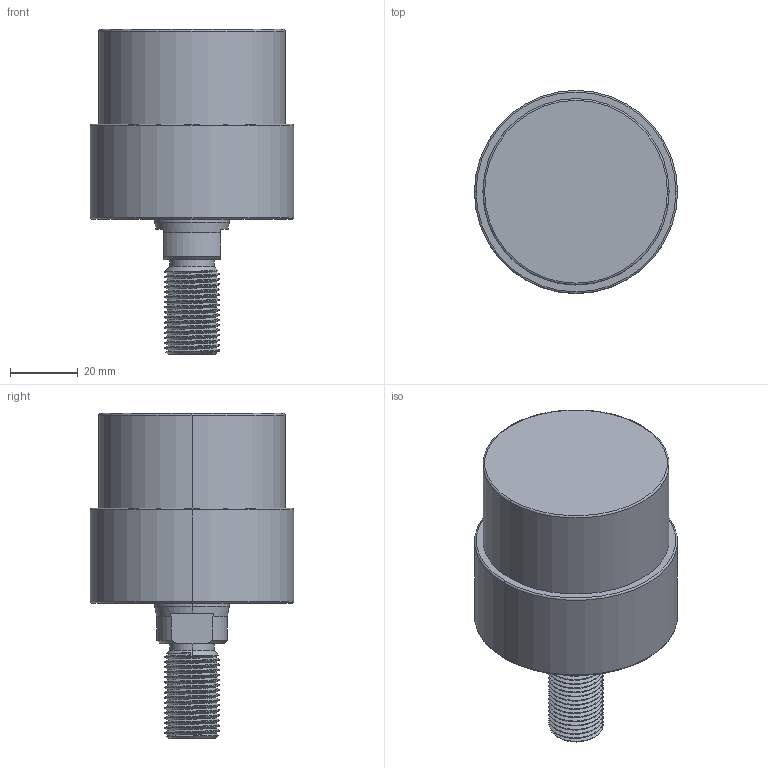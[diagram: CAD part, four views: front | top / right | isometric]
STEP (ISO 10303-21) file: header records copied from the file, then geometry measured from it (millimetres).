
FILE_DESCRIPTION (( 'STEP AP203' ), '1' );
FILE_NAME ('CLLU-055CT-(01-014).STEP', '2020-01-16T00:21:19', ( '' ), ( '' ), 'SwSTEP 2.0', 'SolidWorks 2015', '' );
FILE_SCHEMA (( 'CONFIG_CONTROL_DESIGN' ));
Length unit declared in the file: millimetre
Products named in the file (1): CLLU-055CT-(01-014)
Bounding box: 60 x 60 x 96 mm (x, y, z)
Volume: 152971.2 mm3; surface area: 19817.7 mm2
Topology: 1 solids, 1 shells, 101 faces, 253 edges, 155 vertices
Faces by surface type: cylinder 55, cone 26, plane 12, torus 6, bspline 2
Entity records: 4861 total; most frequent: CARTESIAN_POINT 2591, ORIENTED_EDGE 490, DIRECTION 438, EDGE_CURVE 245, AXIS2_PLACEMENT_3D 176, VERTEX_POINT 155, EDGE_LOOP 110, ADVANCED_FACE 101
